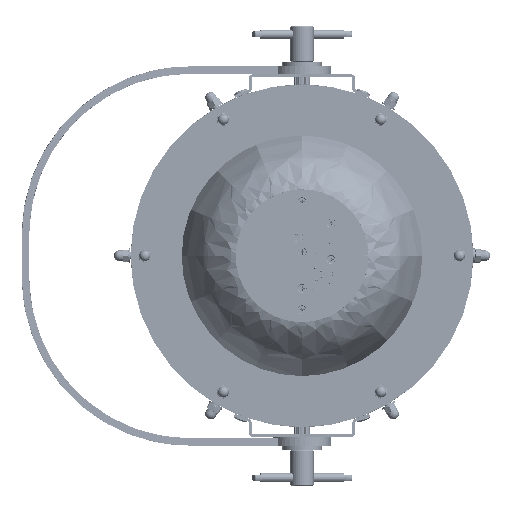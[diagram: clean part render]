
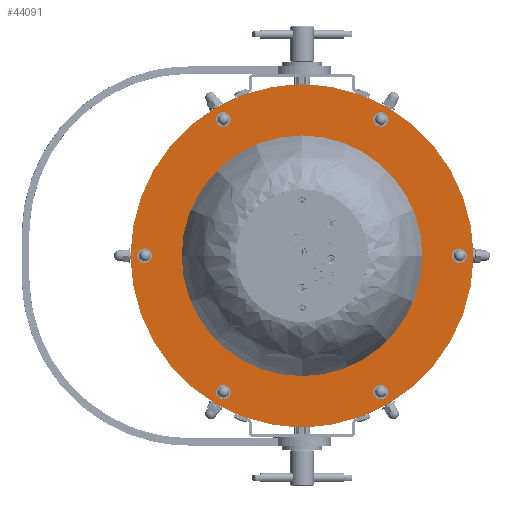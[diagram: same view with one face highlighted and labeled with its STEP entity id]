
A CAD part, front view. The second image highlights one B-rep face of the part: STEP entity #44091.
In plain terms, the highlighted planar face has unit normal (0, -1, 0) as drawn and (0, 0, -1) by its records, which use the part's own axes.
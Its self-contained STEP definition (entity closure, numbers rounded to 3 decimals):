
#16454=ORIENTED_EDGE('',*,*,#25781,.F.);
#16455=ORIENTED_EDGE('',*,*,#25782,.F.);
#16456=ORIENTED_EDGE('',*,*,#25783,.F.);
#16457=ORIENTED_EDGE('',*,*,#25784,.F.);
#16458=ORIENTED_EDGE('',*,*,#25785,.F.);
#16459=ORIENTED_EDGE('',*,*,#25786,.F.);
#16460=ORIENTED_EDGE('',*,*,#25787,.T.);
#16461=ORIENTED_EDGE('',*,*,#25779,.F.);
#25779=EDGE_CURVE('',#30954,#30954,#33708,.T.);
#25781=EDGE_CURVE('',#30956,#30956,#33710,.T.);
#25782=EDGE_CURVE('',#30957,#30957,#33711,.T.);
#25783=EDGE_CURVE('',#30958,#30958,#33712,.T.);
#25784=EDGE_CURVE('',#30959,#30959,#33713,.T.);
#25785=EDGE_CURVE('',#30960,#30960,#33714,.T.);
#25786=EDGE_CURVE('',#30961,#30961,#33715,.T.);
#25787=EDGE_CURVE('',#30962,#30962,#33716,.T.);
#30954=VERTEX_POINT('',#78218);
#30956=VERTEX_POINT('',#78223);
#30957=VERTEX_POINT('',#78225);
#30958=VERTEX_POINT('',#78227);
#30959=VERTEX_POINT('',#78229);
#30960=VERTEX_POINT('',#78231);
#30961=VERTEX_POINT('',#78233);
#30962=VERTEX_POINT('',#78235);
#33708=CIRCLE('',#54987,117.5);
#33710=CIRCLE('',#54990,2.75);
#33711=CIRCLE('',#54991,2.75);
#33712=CIRCLE('',#54992,2.75);
#33713=CIRCLE('',#54993,2.75);
#33714=CIRCLE('',#54994,2.75);
#33715=CIRCLE('',#54995,2.75);
#33716=CIRCLE('',#54996,82.5);
#35749=EDGE_LOOP('',(#16454));
#35750=EDGE_LOOP('',(#16455));
#35751=EDGE_LOOP('',(#16456));
#35752=EDGE_LOOP('',(#16457));
#35753=EDGE_LOOP('',(#16458));
#35754=EDGE_LOOP('',(#16459));
#35755=EDGE_LOOP('',(#16460));
#35756=EDGE_LOOP('',(#16461));
#39214=FACE_BOUND('',#35749,.T.);
#39215=FACE_BOUND('',#35750,.T.);
#39216=FACE_BOUND('',#35751,.T.);
#39217=FACE_BOUND('',#35752,.T.);
#39218=FACE_BOUND('',#35753,.T.);
#39219=FACE_BOUND('',#35754,.T.);
#39220=FACE_BOUND('',#35755,.T.);
#39221=FACE_BOUND('',#35756,.T.);
#41879=PLANE('',#54989);
#44091=ADVANCED_FACE('',(#39214,#39215,#39216,#39217,#39218,#39219,#39220,
#39221),#41879,.F.);
#54987=AXIS2_PLACEMENT_3D('',#78217,#62246,#62247);
#54989=AXIS2_PLACEMENT_3D('',#78221,#62250,#62251);
#54990=AXIS2_PLACEMENT_3D('',#78222,#62252,#62253);
#54991=AXIS2_PLACEMENT_3D('',#78224,#62254,#62255);
#54992=AXIS2_PLACEMENT_3D('',#78226,#62256,#62257);
#54993=AXIS2_PLACEMENT_3D('',#78228,#62258,#62259);
#54994=AXIS2_PLACEMENT_3D('',#78230,#62260,#62261);
#54995=AXIS2_PLACEMENT_3D('',#78232,#62262,#62263);
#54996=AXIS2_PLACEMENT_3D('',#78234,#62264,#62265);
#62246=DIRECTION('',(0.,0.,1.));
#62247=DIRECTION('',(1.,0.,0.));
#62250=DIRECTION('',(0.,0.,1.));
#62251=DIRECTION('',(1.,0.,0.));
#62252=DIRECTION('',(0.,0.,-1.));
#62253=DIRECTION('',(1.,0.,0.));
#62254=DIRECTION('',(0.,0.,-1.));
#62255=DIRECTION('',(1.,0.,0.));
#62256=DIRECTION('',(0.,0.,-1.));
#62257=DIRECTION('',(1.,0.,0.));
#62258=DIRECTION('',(0.,0.,-1.));
#62259=DIRECTION('',(1.,0.,0.));
#62260=DIRECTION('',(0.,0.,-1.));
#62261=DIRECTION('',(1.,0.,0.));
#62262=DIRECTION('',(0.,0.,-1.));
#62263=DIRECTION('',(1.,0.,0.));
#62264=DIRECTION('',(0.,0.,1.));
#62265=DIRECTION('',(1.,0.,0.));
#78217=CARTESIAN_POINT('',(0.,0.,-1.5));
#78218=CARTESIAN_POINT('',(117.5,0.,-1.5));
#78221=CARTESIAN_POINT('',(0.,0.,-1.5));
#78222=CARTESIAN_POINT('',(-53.95,93.444,-1.5));
#78223=CARTESIAN_POINT('',(-51.2,93.444,-1.5));
#78224=CARTESIAN_POINT('',(53.95,93.444,-1.5));
#78225=CARTESIAN_POINT('',(56.7,93.444,-1.5));
#78226=CARTESIAN_POINT('',(107.9,0.,-1.5));
#78227=CARTESIAN_POINT('',(110.65,0.,-1.5));
#78228=CARTESIAN_POINT('',(53.95,-93.444,-1.5));
#78229=CARTESIAN_POINT('',(56.7,-93.444,-1.5));
#78230=CARTESIAN_POINT('',(-53.95,-93.444,-1.5));
#78231=CARTESIAN_POINT('',(-51.2,-93.444,-1.5));
#78232=CARTESIAN_POINT('',(-107.9,0.,-1.5));
#78233=CARTESIAN_POINT('',(-105.15,0.,-1.5));
#78234=CARTESIAN_POINT('',(0.,0.,-1.5));
#78235=CARTESIAN_POINT('',(82.5,0.,-1.5));
